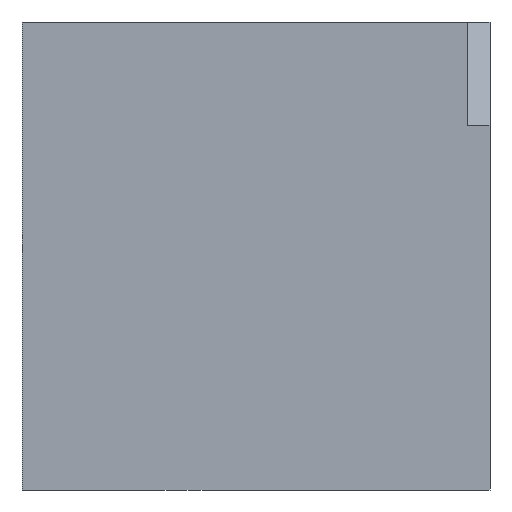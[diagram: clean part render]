
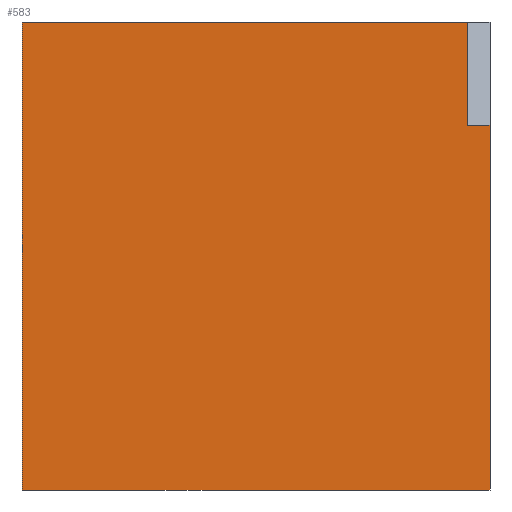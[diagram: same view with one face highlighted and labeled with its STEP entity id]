
A CAD part, left-side view. The second image highlights one B-rep face of the part: STEP entity #583.
In plain terms, the highlighted planar face has unit normal (-1, 0, 0).
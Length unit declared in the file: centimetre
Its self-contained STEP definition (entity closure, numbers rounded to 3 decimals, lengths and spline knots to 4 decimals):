
#55 = CARTESIAN_POINT ( 'NONE',  ( 0., 1000., 1000. ) ) ;
#118 = EDGE_CURVE ( 'NONE', #740, #385, #337, .T. ) ;
#134 = DIRECTION ( 'NONE',  ( 0., 0., -1. ) ) ;
#159 = CARTESIAN_POINT ( 'NONE',  ( 0., 49.0719, 779.75 ) ) ;
#164 = DIRECTION ( 'NONE',  ( 0., 0., -1. ) ) ;
#169 = EDGE_CURVE ( 'NONE', #820, #234, #542, .T. ) ;
#177 = FACE_OUTER_BOUND ( 'NONE', #749, .T. ) ;
#202 = ORIENTED_EDGE ( 'NONE', *, *, #169, .F. ) ;
#207 = EDGE_CURVE ( 'NONE', #825, #230, #504, .T. ) ;
#212 = CARTESIAN_POINT ( 'NONE',  ( 0., 49.0719, 1000. ) ) ;
#213 = VECTOR ( 'NONE', #696, 100. ) ;
#220 = VECTOR ( 'NONE', #824, 100. ) ;
#230 = VERTEX_POINT ( 'NONE', #492 ) ;
#234 = VERTEX_POINT ( 'NONE', #433 ) ;
#236 = DIRECTION ( 'NONE',  ( 1., 0., 0. ) ) ;
#265 = CARTESIAN_POINT ( 'NONE',  ( 0., 1000., 1000. ) ) ;
#281 = CARTESIAN_POINT ( 'NONE',  ( 0., 1000., 0. ) ) ;
#337 = LINE ( 'NONE', #212, #738 ) ;
#385 = VERTEX_POINT ( 'NONE', #849 ) ;
#399 = EDGE_CURVE ( 'NONE', #230, #234, #622, .T. ) ;
#409 = LINE ( 'NONE', #159, #213 ) ;
#411 = DIRECTION ( 'NONE',  ( 0., 0., -1. ) ) ;
#416 = VECTOR ( 'NONE', #670, 100. ) ;
#421 = PLANE ( 'NONE',  #653 ) ;
#433 = CARTESIAN_POINT ( 'NONE',  ( 0., 0., 0. ) ) ;
#436 = ORIENTED_EDGE ( 'NONE', *, *, #118, .F. ) ;
#492 = CARTESIAN_POINT ( 'NONE',  ( 0., 1000., 0. ) ) ;
#498 = ORIENTED_EDGE ( 'NONE', *, *, #399, .T. ) ;
#504 = LINE ( 'NONE', #629, #220 ) ;
#516 = CARTESIAN_POINT ( 'NONE',  ( 0., 49.0719, 1000. ) ) ;
#518 = EDGE_CURVE ( 'NONE', #385, #820, #409, .T. ) ;
#521 = VECTOR ( 'NONE', #607, 100. ) ;
#542 = LINE ( 'NONE', #602, #579 ) ;
#579 = VECTOR ( 'NONE', #134, 100. ) ;
#583 = ADVANCED_FACE ( 'NONE', ( #177 ), #421, .F. ) ;
#602 = CARTESIAN_POINT ( 'NONE',  ( 0., 0., 1000. ) ) ;
#607 = DIRECTION ( 'NONE',  ( 0., -1., 0. ) ) ;
#622 = LINE ( 'NONE', #281, #521 ) ;
#629 = CARTESIAN_POINT ( 'NONE',  ( 0., 1000., 1000. ) ) ;
#649 = LINE ( 'NONE', #55, #416 ) ;
#653 = AXIS2_PLACEMENT_3D ( 'NONE', #844, #236, #164 ) ;
#670 = DIRECTION ( 'NONE',  ( 0., -1., 0. ) ) ;
#696 = DIRECTION ( 'NONE',  ( 0., -1., 0. ) ) ;
#737 = ORIENTED_EDGE ( 'NONE', *, *, #207, .T. ) ;
#738 = VECTOR ( 'NONE', #411, 100. ) ;
#740 = VERTEX_POINT ( 'NONE', #516 ) ;
#749 = EDGE_LOOP ( 'NONE', ( #202, #846, #436, #853, #737, #498 ) ) ;
#816 = EDGE_CURVE ( 'NONE', #825, #740, #649, .T. ) ;
#820 = VERTEX_POINT ( 'NONE', #823 ) ;
#823 = CARTESIAN_POINT ( 'NONE',  ( 0., 0., 779.75 ) ) ;
#824 = DIRECTION ( 'NONE',  ( 0., 0., -1. ) ) ;
#825 = VERTEX_POINT ( 'NONE', #265 ) ;
#844 = CARTESIAN_POINT ( 'NONE',  ( 0., 1000., 1000. ) ) ;
#846 = ORIENTED_EDGE ( 'NONE', *, *, #518, .F. ) ;
#849 = CARTESIAN_POINT ( 'NONE',  ( 0., 49.0719, 779.75 ) ) ;
#853 = ORIENTED_EDGE ( 'NONE', *, *, #816, .F. ) ;
